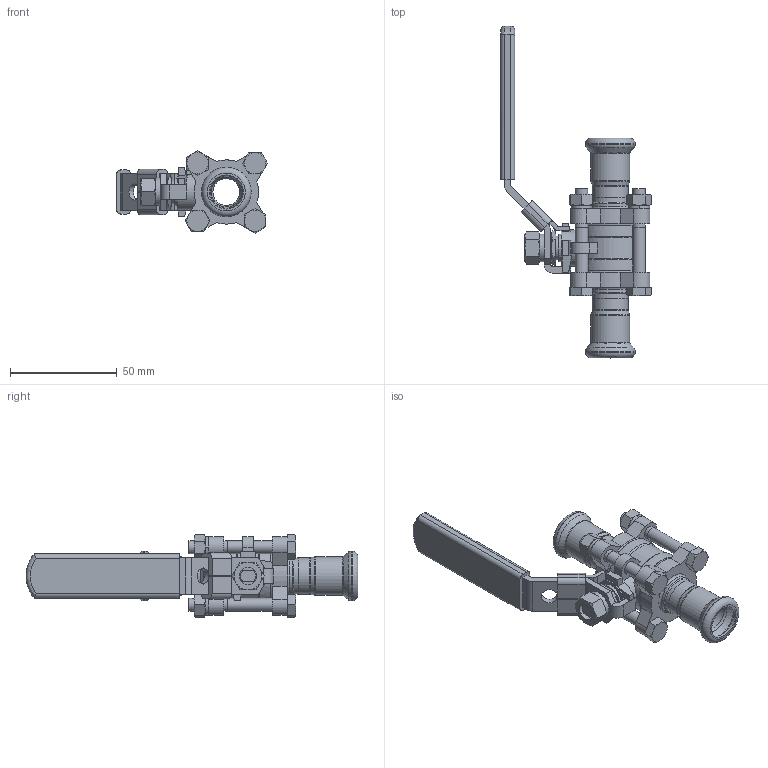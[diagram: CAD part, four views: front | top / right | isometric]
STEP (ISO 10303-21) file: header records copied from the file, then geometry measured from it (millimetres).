
FILE_DESCRIPTION(('STEP AP214'),'1');
FILE_NAME('1-4.stp','2024-05-13T03:11:48',(' '),(' '),'Spatial InterOp 3D',' ',' ');
FILE_SCHEMA(('AUTOMOTIVE_DESIGN { 1 0 10303 214 1 1 1 1 }'));
Length unit declared in the file: millimetre
Products named in the file (21): 3PC卡压球阀1-4; 半截接头; 阀体; 阀座; 垫圈 ： 单圈弹簧 - M6.0 x 1.6; 螺母 ： 标准 - M6.0 x 5.2; 螺栓 ： 六角头 - M6.0 x 46.0; 垫圈 ： 单圈弹簧 - M8.0 x 2.1; 螺母 ： 标准 - M8.0 x 6.8; 手柄套; 锁扣; 手柄; 格兰; 填料; 焊接阀盖; 小片; 阀杆; 球体
Assembly tree (29 placements, depth 2):
  3PC卡压球阀1-4
    半截接头
    阀体
    阀座
    阀座
    垫圈 ： 单圈弹簧 - M6.0 x 1.6  x4
    螺母 ： 标准 - M6.0 x 5.2  x4
    螺栓 ： 六角头 - M6.0 x 46.0  x4
    垫圈 ： 单圈弹簧 - M8.0 x 2.1
    螺母 ： 标准 - M8.0 x 6.8
    手柄套
    锁扣
    手柄
    格兰
    填料
    焊接阀盖
    小片
    阀杆
    球体
    半截接头
    焊接阀盖
Bounding box: 70.51 x 155.18 x 38.42 mm (x, y, z)
Volume: 54802.8 mm3; surface area: 48108.1 mm2
Topology: 29 solids, 29 shells, 515 faces, 1147 edges, 707 vertices
Faces by surface type: plane 247, cone 124, cylinder 109, torus 24, bspline 10, sphere 1
Full cylindrical faces by diameter (mm): 6 x8, 6.2 x8, 6.5 x1, 7.5 x1, 8 x3, 8.2 x1, 8.5 x2, 10 x2, 11 x2, 11.3 x1, 11.326 x1, 12.5 x5, 12.7 x1, 14 x4, 15.2 x2, 15.9 x2, 17 x5, 18 x2, 18.2 x2, 23.2 x2, 23.3 x4, 26.7 x2, 26.8 x2, 30 x2
Entity records: 14440 total; most frequent: CARTESIAN_POINT 2726, DIRECTION 1751, ORIENTED_EDGE 1492, EDGE_CURVE 746, AXIS2_PLACEMENT_3D 715, EDGE_LOOP 555, VERTEX_POINT 525, FACE_OUTER_BOUND 462
